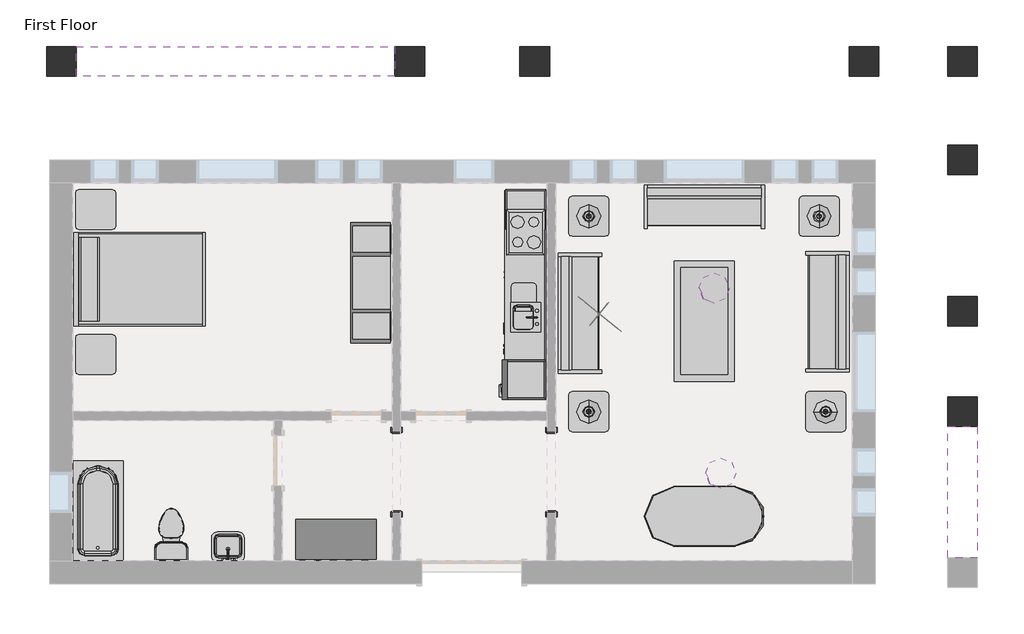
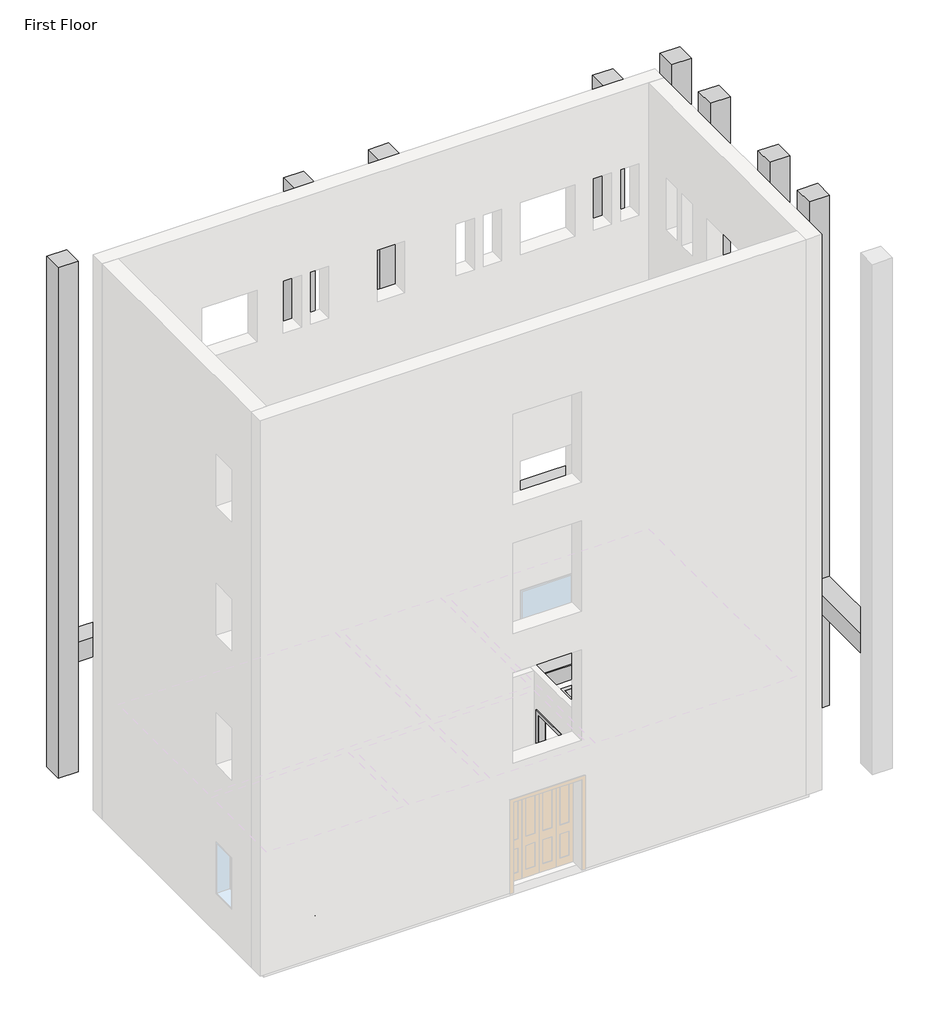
# One storey, part 3 of 3: 15 furniture elements, 8 columns, 7 proxies, 6 light fixtures, 4 flow terminals, 2 beams.
"""IFC4 building model written with IfcOpenShell, lengths in millimetres."""

from ifc_helpers import new_model, si_unit, frame, origin, place, context, project, spatial, polyline, outline, extrude, faceted_brep, transform, mapped, element, save
from components import m_cook_top_4_unit2_0615_x_500mm_249f3515, m_dishwasher_610_x_610_x_875mm_54ecfc4c, m_kitchenette_medium_2591_ce898a11, m_passage_opening_cased_1220_x_2134mm_87a8d9c2, m_rpc_female_c3b5a3e1, m_refrigerator_600_x_660mm_a466bf94, m_sink_kitchen_island_450_x_450mm_f969cf2d, m_sink_vanity_square_500_x_440mm_1e229b74, m_toilet_domestic_3d_m_toilet_domestic_3d_5cb52bd4, m_toilet_domestic_3d_m_toilet_domestic_3d_183bbd19, m_tub_rectangular_3d_m_tub_rectangular_3d_3a981ad5, m_bed_shaker_1422_x_1981mm_double_096e7f55, m_counter_top_w_sink_hole_600mm_depth_5db41418, m_dresser_1220_x_1525_x_0610mm_18e1f140, m_entertainment_center_1830_x_1830_x_0610mm_f77a9b93, m_sofa_1830mm_58d08fc1, m_table_coffee_0915_x_1830_x_0457mm_134cd960, m_table_dining_oval_0915_x_1830mm_a7cfbe21, m_table_end_cb6ea12e, m_pendant_light_disk_100w_120v_a7a090af, m_table_lamp_standard_60w_120v_6e8cd8b1

model = new_model("IFC4")

# Units and contexts
model_context = context("Model", 3, world=origin())
ifc_project = project(units=[si_unit("LENGTHUNIT", "METRE", prefix="MILLI")], contexts=[model_context])

# Site, building, storey
site = spatial("IfcSite", under=ifc_project)
building = spatial("IfcBuilding", under=site)
storey = spatial("IfcBuildingStorey", under=building, Name="First Floor", Elevation=0.0)

# Beams
placement = place(None, origin())
element("IfcBeam", 1, ObjectType="M_Concrete-Rectangular Beam : 450 x 450", at=placement, inside=storey, context=model_context, shape_type="SweptSolid", body=[
    extrude(outline(polyline([(-1643.3416203, 4481.1188386), (-1643.3416203, 4031.1188386), (-2693.3416203, 4031.1188386), (-2693.3416203, 4481.1188386), (-1643.3416203, 4481.1188386)])), frame((0.0, 0.0, 2598.0), z_axis=(0.0, 0.0, 1.0), x_axis=(1.0, 0.0, 0.0)), (0.0, 0.0, 1.0), 450.0),
    extrude(outline(polyline([(-14885.3416203, 4031.1188386), (-14885.3416203, 4481.1188386), (-10043.3416203, 4481.1188386), (-10043.3416203, 4031.1188386), (-14885.3416203, 4031.1188386)])), frame((0.0, 0.0, 2598.0), z_axis=(0.0, 0.0, 1.0), x_axis=(1.0, 0.0, 0.0)), (0.0, 0.0, 1.0), 450.0),
    extrude(outline(polyline([(-3143.3416203, 4481.1188386), (-3143.3416203, 4031.1188386), (-7693.3416203, 4031.1188386), (-7693.3416203, 4481.1188386), (-3143.3416203, 4481.1188386)])), frame((0.0, 0.0, 2598.0), z_axis=(0.0, 0.0, 1.0), x_axis=(1.0, 0.0, 0.0)), (0.0, 0.0, 1.0), 450.0),
    extrude(outline(polyline([(-8143.3416203, 4481.1188386), (-8143.3416203, 4031.1188386), (-9593.3416203, 4031.1188386), (-9593.3416203, 4481.1188386), (-8143.3416203, 4481.1188386)])), frame((0.0, 0.0, 2598.0), z_axis=(0.0, 0.0, 1.0), x_axis=(1.0, 0.0, 0.0)), (0.0, 0.0, 1.0), 450.0),
])
element("IfcBeam", 2, ObjectType="M_Concrete-Rectangular Beam : 450 x 450", at=placement, inside=storey, context=model_context, shape_type="SweptSolid", body=[
    extrude(outline(polyline([(-1193.3416203, -3289.8811614), (-1643.3416203, -3289.8811614), (-1643.3416203, -1295.3811614), (-1193.3416203, -1295.3811614), (-1193.3416203, -3289.8811614)])), frame((0.0, 0.0, 2598.0), z_axis=(0.0, 0.0, 1.0), x_axis=(1.0, 0.0, 0.0)), (0.0, 0.0, 1.0), 450.0),
    extrude(outline(polyline([(-1643.3416203, 4031.1188386), (-1193.3416203, 4031.1188386), (-1193.3416203, 2981.1188386), (-1643.3416203, 2981.1188386), (-1643.3416203, 4031.1188386)])), frame((0.0, 0.0, 2598.0), z_axis=(0.0, 0.0, 1.0), x_axis=(1.0, 0.0, 0.0)), (0.0, 0.0, 1.0), 450.0),
    extrude(outline(polyline([(-1643.3416203, 2531.1188386), (-1193.3416203, 2531.1188386), (-1193.3416203, 681.1188386), (-1643.3416203, 681.1188386), (-1643.3416203, 2531.1188386)])), frame((0.0, 0.0, 2598.0), z_axis=(0.0, 0.0, 1.0), x_axis=(1.0, 0.0, 0.0)), (0.0, 0.0, 1.0), 450.0),
    extrude(outline(polyline([(-1643.3416203, 231.1188386), (-1193.3416203, 231.1188386), (-1193.3416203, -845.3811614), (-1643.3416203, -845.3811614), (-1643.3416203, 231.1188386)])), frame((0.0, 0.0, 2598.0), z_axis=(0.0, 0.0, 1.0), x_axis=(1.0, 0.0, 0.0)), (0.0, 0.0, 1.0), 450.0),
])

# Proxies
m_cook_top_4_unit2_0615_x_500mm_shape = m_cook_top_4_unit2_0615_x_500mm_249f3515(model_context)
element("IfcBuildingElementProxy", 3, Name="M_Cook Top-4 Unit2 : 0615 x 500mm", ObjectType="M_Cook Top-4 Unit2 : 0615 x 500mm", at=placement, inside=storey, context=model_context, shape_type="MappedRepresentation", body=[
    mapped(m_cook_top_4_unit2_0615_x_500mm_shape, transform((-8054.9916203, 1658.804661, 0.0), x_axis=(0.0, -1.0, 0.0), y_axis=(1.0, 0.0, 0.0), z_axis=(0.0, 0.0, 1.0))),
])
m_dishwasher_610_x_610_x_875mm_shape = m_dishwasher_610_x_610_x_875mm_54ecfc4c(model_context)
element("IfcBuildingElementProxy", 4, Name="M_Dishwasher : 610 x 610 x 875mm", ObjectType="M_Dishwasher : 610 x 610 x 875mm", at=placement, inside=storey, context=model_context, shape_type="MappedRepresentation", body=[
    mapped(m_dishwasher_610_x_610_x_875mm_shape, transform((-8321.6411851, 403.0721295, 0.0), x_axis=(0.0, -1.0, 0.0), y_axis=(1.0, 0.0, 0.0), z_axis=(0.0, 0.0, 1.0))),
])
m_kitchenette_medium_2591_shape = m_kitchenette_medium_2591_ce898a11(model_context)
element("IfcBuildingElementProxy", 5, Name="M_Kitchenette - Medium : 2591", ObjectType="M_Kitchenette - Medium : 2591", at=placement, inside=storey, context=model_context, shape_type="MappedRepresentation", body=[
    mapped(m_kitchenette_medium_2591_shape, transform((-7749.9916203, 1029.7923659, 0.0), x_axis=(0.0, -1.0, 0.0), y_axis=(1.0, 0.0, 0.0), z_axis=(0.0, 0.0, 1.0))),
])
m_passage_opening_cased_1220_x_2134mm_shape = m_passage_opening_cased_1220_x_2134mm_87a8d9c2(model_context)
element("IfcBuildingElementProxy", 6, Name="M_Passage Opening-Cased : 1220 x 2134mm", ObjectType="M_Passage Opening-Cased : 1220 x 2134mm", at=placement, inside=storey, context=model_context, shape_type="MappedRepresentation", body=[
    mapped(m_passage_opening_cased_1220_x_2134mm_shape, transform((-7665.3416203, -1982.6925047, 0.0), x_axis=(0.0, 1.0, 0.0), y_axis=(-1.0, 0.0, 0.0), z_axis=(0.0, 0.0, 1.0))),
])
element("IfcBuildingElementProxy", 7, Name="M_Passage Opening-Cased : 1220 x 2134mm", ObjectType="M_Passage Opening-Cased : 1220 x 2134mm", at=placement, inside=storey, context=model_context, shape_type="MappedRepresentation", body=[
    mapped(m_passage_opening_cased_1220_x_2134mm_shape, transform((-10019.0916203, -1999.0698181, 0.0), x_axis=(0.0, -1.0, 0.0), y_axis=(1.0, 0.0, 0.0), z_axis=(0.0, 0.0, 1.0))),
])
m_rpc_female_shape = m_rpc_female_c3b5a3e1(model_context)
element("IfcBuildingElementProxy", 8, Name="M_RPC Female : Cynthia", ObjectType="M_RPC Female : Cynthia", at=placement, inside=storey, context=model_context, shape_type="MappedRepresentation", body=[
    mapped(m_rpc_female_shape, transform((-6817.8815242, 314.0517006, 0.0), x_axis=(-0.6293203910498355, -0.7771459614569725, 0.0), y_axis=(0.7771459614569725, -0.6293203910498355, 0.0), z_axis=(0.0, 0.0, 1.0))),
])
m_refrigerator_600_x_660mm_shape = m_refrigerator_600_x_660mm_a466bf94(model_context)
element("IfcBuildingElementProxy", 9, Name="M_Refrigerator : 600 x 660mm", ObjectType="M_Refrigerator : 600 x 660mm", at=placement, inside=storey, context=model_context, shape_type="MappedRepresentation", body=[
    mapped(m_refrigerator_600_x_660mm_shape, transform((-8046.2067105, -638.2464817, 0.0), x_axis=(0.0, -1.0, 0.0), y_axis=(1.0, 0.0, 0.0), z_axis=(0.0, 0.0, 1.0))),
])

# Columns
element("IfcColumn", 10, ObjectType="M_Concrete-Square-Column : 450 x 450mm", at=placement, inside=storey, context=model_context, shape_type="Brep", body=[
    faceted_brep([(-2693.3416203, 4481.1188386, 0.0), (-2693.3416203, 4031.1188386, 0.0), (-3143.3416203, 4031.1188386, 0.0), (-3143.3416203, 4481.1188386, 0.0), (-2693.3416203, 4481.1188386, 12042.0), (-2693.3416203, 4031.1188386, 12042.0), (-2693.3416203, 4031.1188386, 11742.0), (-2693.3416203, 4031.1188386, 9144.0), (-2693.3416203, 4031.1188386, 8694.0), (-2693.3416203, 4031.1188386, 6096.0), (-2693.3416203, 4031.1188386, 5646.0), (-2693.3416203, 4031.1188386, 3048.0), (-2693.3416203, 4031.1188386, 2598.0), (-2693.3416203, 4481.1188386, 2598.0), (-2693.3416203, 4481.1188386, 3048.0), (-2693.3416203, 4481.1188386, 5646.0), (-2693.3416203, 4481.1188386, 6096.0), (-2693.3416203, 4481.1188386, 8694.0), (-2693.3416203, 4481.1188386, 9144.0), (-2693.3416203, 4481.1188386, 11742.0), (-3143.3416203, 4031.1188386, 12042.0), (-3143.3416203, 4031.1188386, 11742.0), (-3143.3416203, 4031.1188386, 9144.0), (-3143.3416203, 4031.1188386, 8694.0), (-3143.3416203, 4031.1188386, 6096.0), (-3143.3416203, 4031.1188386, 5646.0), (-3143.3416203, 4031.1188386, 3048.0), (-3143.3416203, 4031.1188386, 2598.0), (-3143.3416203, 4481.1188386, 12042.0), (-3143.3416203, 4481.1188386, 11742.0), (-3143.3416203, 4481.1188386, 9144.0), (-3143.3416203, 4481.1188386, 8694.0), (-3143.3416203, 4481.1188386, 6096.0), (-3143.3416203, 4481.1188386, 5646.0), (-3143.3416203, 4481.1188386, 3048.0), (-3143.3416203, 4481.1188386, 2598.0)], [[[0, 1, 2, 3]], [[4, 5, 6, 7, 8, 9, 10, 11, 12, 1, 0, 13, 14, 15, 16, 17, 18, 19]], [[5, 20, 21, 22, 23, 24, 25, 26, 27, 2, 1, 12, 11, 10, 9, 8, 7, 6]], [[20, 28, 29, 30, 31, 32, 33, 34, 35, 3, 2, 27, 26, 25, 24, 23, 22, 21]], [[28, 4, 19, 18, 17, 16, 15, 14, 13, 0, 3, 35, 34, 33, 32, 31, 30, 29]], [[4, 28, 20, 5]]]),
])
element("IfcColumn", 11, ObjectType="M_Concrete-Square-Column : 450 x 450mm", at=placement, inside=storey, context=model_context, shape_type="Brep", body=[
    faceted_brep([(-7693.3416203, 4481.1188386, 0.0), (-7693.3416203, 4031.1188386, 0.0), (-8143.3416203, 4031.1188386, 0.0), (-8143.3416203, 4481.1188386, 0.0), (-7693.3416203, 4481.1188386, 12042.0), (-7693.3416203, 4031.1188386, 12042.0), (-7693.3416203, 4031.1188386, 11742.0), (-7693.3416203, 4031.1188386, 9144.0), (-7693.3416203, 4031.1188386, 8694.0), (-7693.3416203, 4031.1188386, 6096.0), (-7693.3416203, 4031.1188386, 5646.0), (-7693.3416203, 4031.1188386, 3048.0), (-7693.3416203, 4031.1188386, 2598.0), (-7693.3416203, 4481.1188386, 2598.0), (-7693.3416203, 4481.1188386, 3048.0), (-7693.3416203, 4481.1188386, 5646.0), (-7693.3416203, 4481.1188386, 6096.0), (-7693.3416203, 4481.1188386, 8694.0), (-7693.3416203, 4481.1188386, 9144.0), (-7693.3416203, 4481.1188386, 11742.0), (-8143.3416203, 4031.1188386, 12042.0), (-8143.3416203, 4031.1188386, 11742.0), (-8143.3416203, 4031.1188386, 9144.0), (-8143.3416203, 4031.1188386, 8694.0), (-8143.3416203, 4031.1188386, 6096.0), (-8143.3416203, 4031.1188386, 5646.0), (-8143.3416203, 4031.1188386, 3048.0), (-8143.3416203, 4031.1188386, 2598.0), (-8143.3416203, 4481.1188386, 12042.0), (-8143.3416203, 4481.1188386, 11742.0), (-8143.3416203, 4481.1188386, 9144.0), (-8143.3416203, 4481.1188386, 8694.0), (-8143.3416203, 4481.1188386, 6096.0), (-8143.3416203, 4481.1188386, 5646.0), (-8143.3416203, 4481.1188386, 3048.0), (-8143.3416203, 4481.1188386, 2598.0)], [[[0, 1, 2, 3]], [[4, 5, 6, 7, 8, 9, 10, 11, 12, 1, 0, 13, 14, 15, 16, 17, 18, 19]], [[5, 20, 21, 22, 23, 24, 25, 26, 27, 2, 1, 12, 11, 10, 9, 8, 7, 6]], [[20, 28, 29, 30, 31, 32, 33, 34, 35, 3, 2, 27, 26, 25, 24, 23, 22, 21]], [[28, 4, 19, 18, 17, 16, 15, 14, 13, 0, 3, 35, 34, 33, 32, 31, 30, 29]], [[4, 28, 20, 5]]]),
])
element("IfcColumn", 12, ObjectType="M_Concrete-Square-Column : 450 x 450mm", at=placement, inside=storey, context=model_context, shape_type="Brep", body=[
    faceted_brep([(-9593.3416203, 4481.1188386, 0.0), (-9593.3416203, 4031.1188386, 0.0), (-10043.3416203, 4031.1188386, 0.0), (-10043.3416203, 4481.1188386, 0.0), (-9593.3416203, 4481.1188386, 12042.0), (-9593.3416203, 4031.1188386, 12042.0), (-9593.3416203, 4031.1188386, 11742.0), (-9593.3416203, 4031.1188386, 9144.0), (-9593.3416203, 4031.1188386, 8694.0), (-9593.3416203, 4031.1188386, 6096.0), (-9593.3416203, 4031.1188386, 5646.0), (-9593.3416203, 4031.1188386, 3048.0), (-9593.3416203, 4031.1188386, 2598.0), (-9593.3416203, 4481.1188386, 2598.0), (-9593.3416203, 4481.1188386, 3048.0), (-9593.3416203, 4481.1188386, 5646.0), (-9593.3416203, 4481.1188386, 6096.0), (-9593.3416203, 4481.1188386, 8694.0), (-9593.3416203, 4481.1188386, 9144.0), (-9593.3416203, 4481.1188386, 11742.0), (-10043.3416203, 4031.1188386, 12042.0), (-10043.3416203, 4031.1188386, 11742.0), (-10043.3416203, 4031.1188386, 9144.0), (-10043.3416203, 4031.1188386, 8694.0), (-10043.3416203, 4031.1188386, 6096.0), (-10043.3416203, 4031.1188386, 5646.0), (-10043.3416203, 4031.1188386, 3048.0), (-10043.3416203, 4031.1188386, 2598.0), (-10043.3416203, 4481.1188386, 12042.0), (-10043.3416203, 4481.1188386, 11742.0), (-10043.3416203, 4481.1188386, 9144.0), (-10043.3416203, 4481.1188386, 8694.0), (-10043.3416203, 4481.1188386, 6096.0), (-10043.3416203, 4481.1188386, 5646.0), (-10043.3416203, 4481.1188386, 3048.0), (-10043.3416203, 4481.1188386, 2598.0)], [[[0, 1, 2, 3]], [[4, 5, 6, 7, 8, 9, 10, 11, 12, 1, 0, 13, 14, 15, 16, 17, 18, 19]], [[5, 20, 21, 22, 23, 24, 25, 26, 27, 2, 1, 12, 11, 10, 9, 8, 7, 6]], [[20, 28, 29, 30, 31, 32, 33, 34, 35, 3, 2, 27, 26, 25, 24, 23, 22, 21]], [[28, 4, 19, 18, 17, 16, 15, 14, 13, 0, 3, 35, 34, 33, 32, 31, 30, 29]], [[4, 28, 20, 5]]]),
])
element("IfcColumn", 13, ObjectType="M_Concrete-Square-Column : 450 x 450mm", at=placement, inside=storey, context=model_context, shape_type="Brep", body=[
    faceted_brep([(-14885.3416203, 4481.1188386, 0.0), (-14885.3416203, 4031.1188386, 0.0), (-15335.3416203, 4031.1188386, 0.0), (-15335.3416203, 4481.1188386, 0.0), (-14885.3416203, 4481.1188386, 12042.0), (-14885.3416203, 4031.1188386, 12042.0), (-14885.3416203, 4031.1188386, 11742.0), (-14885.3416203, 4481.1188386, 11742.0), (-15335.3416203, 4031.1188386, 12042.0), (-15335.3416203, 4031.1188386, 11742.0), (-15335.3416203, 4481.1188386, 12042.0), (-15335.3416203, 4481.1188386, 11742.0)], [[[0, 1, 2, 3]], [[4, 5, 6, 1, 0, 7]], [[5, 8, 9, 2, 1, 6]], [[8, 10, 11, 3, 2, 9]], [[10, 4, 7, 0, 3, 11]], [[4, 10, 8, 5]]]),
])
element("IfcColumn", 14, ObjectType="M_Concrete-Square-Column : 450 x 450mm", at=placement, inside=storey, context=model_context, shape_type="Brep", body=[
    faceted_brep([(-1193.3416203, 4481.1188386, 0.0), (-1193.3416203, 4031.1188386, 0.0), (-1643.3416203, 4031.1188386, 0.0), (-1643.3416203, 4481.1188386, 0.0), (-1193.3416203, 4481.1188386, 12042.0), (-1193.3416203, 4031.1188386, 12042.0), (-1193.3416203, 4031.1188386, 11742.0), (-1643.3416203, 4031.1188386, 12042.0), (-1643.3416203, 4031.1188386, 11742.0), (-1643.3416203, 4481.1188386, 12042.0), (-1643.3416203, 4481.1188386, 11742.0)], [[[0, 1, 2, 3]], [[4, 5, 6, 1, 0]], [[5, 7, 8, 2, 1, 6]], [[7, 9, 10, 3, 2, 8]], [[9, 4, 0, 3, 10]], [[4, 9, 7, 5]]]),
])
element("IfcColumn", 15, ObjectType="M_Concrete-Square-Column : 450 x 450mm", at=placement, inside=storey, context=model_context, shape_type="Brep", body=[
    faceted_brep([(-1193.3416203, 2981.1188386, 0.0), (-1193.3416203, 2531.1188386, 0.0), (-1643.3416203, 2531.1188386, 0.0), (-1643.3416203, 2981.1188386, 0.0), (-1193.3416203, 2981.1188386, 12042.0), (-1193.3416203, 2531.1188386, 12042.0), (-1193.3416203, 2531.1188386, 11742.0), (-1193.3416203, 2531.1188386, 9144.0), (-1193.3416203, 2531.1188386, 8694.0), (-1193.3416203, 2531.1188386, 6096.0), (-1193.3416203, 2531.1188386, 5646.0), (-1193.3416203, 2531.1188386, 3048.0), (-1193.3416203, 2531.1188386, 2598.0), (-1193.3416203, 2981.1188386, 2598.0), (-1193.3416203, 2981.1188386, 3048.0), (-1193.3416203, 2981.1188386, 5646.0), (-1193.3416203, 2981.1188386, 6096.0), (-1193.3416203, 2981.1188386, 8694.0), (-1193.3416203, 2981.1188386, 9144.0), (-1193.3416203, 2981.1188386, 11742.0), (-1643.3416203, 2531.1188386, 12042.0), (-1643.3416203, 2531.1188386, 11742.0), (-1643.3416203, 2531.1188386, 9144.0), (-1643.3416203, 2531.1188386, 8694.0), (-1643.3416203, 2531.1188386, 6096.0), (-1643.3416203, 2531.1188386, 5646.0), (-1643.3416203, 2531.1188386, 3048.0), (-1643.3416203, 2531.1188386, 2598.0), (-1643.3416203, 2981.1188386, 12042.0), (-1643.3416203, 2981.1188386, 11742.0), (-1643.3416203, 2981.1188386, 9144.0), (-1643.3416203, 2981.1188386, 8694.0), (-1643.3416203, 2981.1188386, 6096.0), (-1643.3416203, 2981.1188386, 5646.0), (-1643.3416203, 2981.1188386, 3048.0), (-1643.3416203, 2981.1188386, 2598.0)], [[[0, 1, 2, 3]], [[4, 5, 6, 7, 8, 9, 10, 11, 12, 1, 0, 13, 14, 15, 16, 17, 18, 19]], [[5, 20, 21, 22, 23, 24, 25, 26, 27, 2, 1, 12, 11, 10, 9, 8, 7, 6]], [[20, 28, 29, 30, 31, 32, 33, 34, 35, 3, 2, 27, 26, 25, 24, 23, 22, 21]], [[28, 4, 19, 18, 17, 16, 15, 14, 13, 0, 3, 35, 34, 33, 32, 31, 30, 29]], [[4, 28, 20, 5]]]),
])
element("IfcColumn", 16, ObjectType="M_Concrete-Square-Column : 450 x 450mm", at=placement, inside=storey, context=model_context, shape_type="Brep", body=[
    faceted_brep([(-1193.3416203, 681.1188386, 0.0), (-1193.3416203, 231.1188386, 0.0), (-1643.3416203, 231.1188386, 0.0), (-1643.3416203, 681.1188386, 0.0), (-1193.3416203, 681.1188386, 12042.0), (-1193.3416203, 231.1188386, 12042.0), (-1193.3416203, 231.1188386, 11742.0), (-1193.3416203, 231.1188386, 9144.0), (-1193.3416203, 231.1188386, 8694.0), (-1193.3416203, 231.1188386, 6096.0), (-1193.3416203, 231.1188386, 5646.0), (-1193.3416203, 231.1188386, 3048.0), (-1193.3416203, 231.1188386, 2598.0), (-1193.3416203, 681.1188386, 2598.0), (-1193.3416203, 681.1188386, 3048.0), (-1193.3416203, 681.1188386, 5646.0), (-1193.3416203, 681.1188386, 6096.0), (-1193.3416203, 681.1188386, 8694.0), (-1193.3416203, 681.1188386, 9144.0), (-1193.3416203, 681.1188386, 11742.0), (-1643.3416203, 231.1188386, 12042.0), (-1643.3416203, 231.1188386, 11742.0), (-1643.3416203, 231.1188386, 9144.0), (-1643.3416203, 231.1188386, 8694.0), (-1643.3416203, 231.1188386, 6096.0), (-1643.3416203, 231.1188386, 5646.0), (-1643.3416203, 231.1188386, 3048.0), (-1643.3416203, 231.1188386, 2598.0), (-1643.3416203, 681.1188386, 12042.0), (-1643.3416203, 681.1188386, 11742.0), (-1643.3416203, 681.1188386, 9144.0), (-1643.3416203, 681.1188386, 8694.0), (-1643.3416203, 681.1188386, 6096.0), (-1643.3416203, 681.1188386, 5646.0), (-1643.3416203, 681.1188386, 3048.0), (-1643.3416203, 681.1188386, 2598.0)], [[[0, 1, 2, 3]], [[4, 5, 6, 7, 8, 9, 10, 11, 12, 1, 0, 13, 14, 15, 16, 17, 18, 19]], [[5, 20, 21, 22, 23, 24, 25, 26, 27, 2, 1, 12, 11, 10, 9, 8, 7, 6]], [[20, 28, 29, 30, 31, 32, 33, 34, 35, 3, 2, 27, 26, 25, 24, 23, 22, 21]], [[28, 4, 19, 18, 17, 16, 15, 14, 13, 0, 3, 35, 34, 33, 32, 31, 30, 29]], [[4, 28, 20, 5]]]),
])
element("IfcColumn", 17, ObjectType="M_Concrete-Square-Column : 450 x 450mm", at=placement, inside=storey, context=model_context, shape_type="Brep", body=[
    faceted_brep([(-1193.3416203, -845.3811614, 0.0), (-1193.3416203, -1295.3811614, 0.0), (-1643.3416203, -1295.3811614, 0.0), (-1643.3416203, -845.3811614, 0.0), (-1193.3416203, -845.3811614, 12042.0), (-1193.3416203, -1295.3811614, 12042.0), (-1193.3416203, -1295.3811614, 11742.0), (-1193.3416203, -1295.3811614, 9144.0), (-1193.3416203, -1295.3811614, 8694.0), (-1193.3416203, -1295.3811614, 6096.0), (-1193.3416203, -1295.3811614, 5646.0), (-1193.3416203, -1295.3811614, 3048.0), (-1193.3416203, -1295.3811614, 2598.0), (-1193.3416203, -845.3811614, 2598.0), (-1193.3416203, -845.3811614, 3048.0), (-1193.3416203, -845.3811614, 5646.0), (-1193.3416203, -845.3811614, 6096.0), (-1193.3416203, -845.3811614, 8694.0), (-1193.3416203, -845.3811614, 9144.0), (-1193.3416203, -845.3811614, 11742.0), (-1643.3416203, -1295.3811614, 12042.0), (-1643.3416203, -1295.3811614, 11742.0), (-1643.3416203, -1295.3811614, 9144.0), (-1643.3416203, -1295.3811614, 8694.0), (-1643.3416203, -1295.3811614, 6096.0), (-1643.3416203, -1295.3811614, 5646.0), (-1643.3416203, -1295.3811614, 3048.0), (-1643.3416203, -1295.3811614, 2598.0), (-1643.3416203, -845.3811614, 12042.0), (-1643.3416203, -845.3811614, 11742.0), (-1643.3416203, -845.3811614, 9144.0), (-1643.3416203, -845.3811614, 8694.0), (-1643.3416203, -845.3811614, 6096.0), (-1643.3416203, -845.3811614, 5646.0), (-1643.3416203, -845.3811614, 3048.0), (-1643.3416203, -845.3811614, 2598.0)], [[[0, 1, 2, 3]], [[4, 5, 6, 7, 8, 9, 10, 11, 12, 1, 0, 13, 14, 15, 16, 17, 18, 19]], [[5, 20, 21, 22, 23, 24, 25, 26, 27, 2, 1, 12, 11, 10, 9, 8, 7, 6]], [[20, 28, 29, 30, 31, 32, 33, 34, 35, 3, 2, 27, 26, 25, 24, 23, 22, 21]], [[28, 4, 19, 18, 17, 16, 15, 14, 13, 0, 3, 35, 34, 33, 32, 31, 30, 29]], [[4, 28, 20, 5]]]),
])

# Flow terminals
m_sink_kitchen_island_450_x_450mm_shape = m_sink_kitchen_island_450_x_450mm_f969cf2d(model_context)
element("IfcFlowTerminal", 18, ObjectType="M_Sink Kitchen-Island : 450 x 450mm", at=placement, inside=storey, context=model_context, shape_type="MappedRepresentation", body=[
    mapped(m_sink_kitchen_island_450_x_450mm_shape, transform((-8057.3370214, 378.9939015, 0.0), x_axis=(0.0, -1.0, 0.0), y_axis=(1.0, 0.0, 0.0), z_axis=(0.0, 0.0, 1.0))),
])
m_sink_vanity_square_500_x_440mm_shape = m_sink_vanity_square_500_x_440mm_1e229b74(model_context)
element("IfcFlowTerminal", 19, ObjectType="M_Sink Vanity-Square : 500 x 440mm", at=placement, inside=storey, context=model_context, shape_type="MappedRepresentation", body=[
    mapped(m_sink_vanity_square_500_x_440mm_shape, transform((-12563.5523798, -3158.1107603, 0.0), x_axis=(-1.0, 0.0, 0.0), y_axis=(0.0, -1.0, 0.0), z_axis=(0.0, 0.0, 1.0))),
])
m_toilet_domestic_3d_m_toilet_domestic_3d_shape = m_toilet_domestic_3d_m_toilet_domestic_3d_5cb52bd4(model_context)
m_toilet_domestic_3d_m_toilet_domestic_3d_2_shape = m_toilet_domestic_3d_m_toilet_domestic_3d_183bbd19(model_context)
element("IfcFlowTerminal", 20, ObjectType="M_Toilet-Domestic-3D : M_Toilet-Domestic-3D", at=placement, inside=storey, context=model_context, shape_type="MappedRepresentation", body=[
    mapped(m_toilet_domestic_3d_m_toilet_domestic_3d_shape, transform((-13440.7376477, -2845.185134, 0.0), x_axis=(-1.0000000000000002, 0.0, 0.0), y_axis=(0.0, -1.0000000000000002, 0.0), z_axis=(0.0, 0.0, 1.0))),
    mapped(m_toilet_domestic_3d_m_toilet_domestic_3d_2_shape, transform((-13440.7376477, -2845.185134, 0.0), x_axis=(-1.0000000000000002, 0.0, 0.0), y_axis=(0.0, -1.0000000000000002, 0.0), z_axis=(0.0, 0.0, 1.0))),
])
m_tub_rectangular_3d_m_tub_rectangular_3d_shape = m_tub_rectangular_3d_m_tub_rectangular_3d_3a981ad5(model_context)
element("IfcFlowTerminal", 21, ObjectType="M_Tub-Rectangular-3D : M_Tub-Rectangular-3D", at=placement, inside=storey, context=model_context, shape_type="MappedRepresentation", body=[
    mapped(m_tub_rectangular_3d_m_tub_rectangular_3d_shape, transform((-15110.3416203, -2229.2781927, 0.0), x_axis=(0.0, 1.0, 0.0), y_axis=(-1.0, 0.0, 0.0), z_axis=(0.0, 0.0, 1.0))),
])

# Furniture
m_bed_shaker_1422_x_1981mm_double_shape = m_bed_shaker_1422_x_1981mm_double_096e7f55(model_context)
element("IfcFurniture", 22, ObjectType="M_Bed-Shaker : 1422 x 1981mm - Double", at=placement, inside=storey, context=model_context, shape_type="MappedRepresentation", body=[
    mapped(m_bed_shaker_1422_x_1981mm_double_shape, transform((-14905.3416203, 963.9688386, 0.0), x_axis=(0.0, 1.0000000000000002, 0.0), y_axis=(-1.0000000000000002, 0.0, 0.0), z_axis=(0.0, 0.0, 1.0))),
])
m_counter_top_w_sink_hole_600mm_depth_shape = m_counter_top_w_sink_hole_600mm_depth_5db41418(model_context)
element("IfcFurniture", 23, ObjectType="M_Counter Top w Sink Hole : 600mm Depth", at=placement, inside=storey, context=model_context, shape_type="MappedRepresentation", body=[
    mapped(m_counter_top_w_sink_hole_600mm_depth_shape, transform((-7749.9916203, 496.5923659, 0.0), x_axis=(0.0, -1.0, 0.0), y_axis=(1.0, 0.0, 0.0), z_axis=(0.0, 0.0, 1.0))),
])
m_dresser_1220_x_1525_x_0610mm_shape = m_dresser_1220_x_1525_x_0610mm_18e1f140(model_context)
element("IfcFurniture", 24, ObjectType="M_Dresser : 1220 x 1525 x 0610mm", at=placement, inside=storey, context=model_context, shape_type="MappedRepresentation", body=[
    mapped(m_dresser_1220_x_1525_x_0610mm_shape, transform((-10667.6483605, -2647.7182073, 0.0), x_axis=(1.0, 0.0, 0.0), y_axis=(0.0, 1.0, 0.0), z_axis=(0.0, 0.0, 1.0))),
])
m_entertainment_center_1830_x_1830_x_0610mm_shape = m_entertainment_center_1830_x_1830_x_0610mm_f77a9b93(model_context)
element("IfcFurniture", 25, ObjectType="M_Entertainment center : 1830 x 1830 x 0610mm", at=placement, inside=storey, context=model_context, shape_type="MappedRepresentation", body=[
    mapped(m_entertainment_center_1830_x_1830_x_0610mm_shape, transform((-10818.2416203, 891.1188386, 0.0), x_axis=(0.0, 1.0, 0.0), y_axis=(-1.0, 0.0, 0.0), z_axis=(0.0, 0.0, 1.0))),
])
m_sofa_1830mm_shape = m_sofa_1830mm_58d08fc1(model_context)
element("IfcFurniture", 26, ObjectType="M_Sofa : 1830mm", at=placement, inside=storey, context=model_context, shape_type="MappedRepresentation", body=[
    mapped(m_sofa_1830mm_shape, transform((-5413.7121121, 1899.9647403, 0.0), x_axis=(1.0, 0.0, 0.0), y_axis=(0.0, 1.0, 0.0), z_axis=(0.0, 0.0, 1.0))),
])
element("IfcFurniture", 27, ObjectType="M_Sofa : 1830mm", at=placement, inside=storey, context=model_context, shape_type="MappedRepresentation", body=[
    mapped(m_sofa_1830mm_shape, transform((-3617.1736471, 517.2688343, 0.0), x_axis=(0.0, -1.0, 0.0), y_axis=(1.0, 0.0, 0.0), z_axis=(0.0, 0.0, 1.0))),
])
element("IfcFurniture", 28, ObjectType="M_Sofa : 1830mm", at=placement, inside=storey, context=model_context, shape_type="MappedRepresentation", body=[
    mapped(m_sofa_1830mm_shape, transform((-7088.437522, 355.7483468, 0.0), x_axis=(0.0, 1.0, 0.0), y_axis=(-1.0, 0.0, 0.0), z_axis=(0.0, 0.0, 1.0))),
])
m_table_coffee_0915_x_1830_x_0457mm_shape = m_table_coffee_0915_x_1830_x_0457mm_134cd960(model_context)
element("IfcFurniture", 29, ObjectType="M_Table-Coffee : 0915 x 1830 x 0457mm", at=placement, inside=storey, context=model_context, shape_type="MappedRepresentation", body=[
    mapped(m_table_coffee_0915_x_1830_x_0457mm_shape, transform((-5248.1305425, 287.8530719, 0.0), x_axis=(0.0, 1.0, 0.0), y_axis=(-1.0, 0.0, 0.0), z_axis=(0.0, 0.0, 1.0))),
])
m_table_dining_oval_0915_x_1830mm_shape = m_table_dining_oval_0915_x_1830mm_a7cfbe21(model_context)
element("IfcFurniture", 30, ObjectType="M_Table-Dining Oval : 0915 x 1830mm", at=placement, inside=storey, context=model_context, shape_type="MappedRepresentation", body=[
    mapped(m_table_dining_oval_0915_x_1830mm_shape, transform((-4941.5219482, -2305.2828007, 0.0), x_axis=(1.0, 0.0, 0.0), y_axis=(0.0, 1.0, 0.0), z_axis=(0.0, 0.0, 1.0))),
])
m_table_end_shape = m_table_end_cb6ea12e(model_context)
element("IfcFurniture", 31, ObjectType="M_Table-End : 0610 x 0160mm altered height", at=placement, inside=storey, context=model_context, shape_type="MappedRepresentation", body=[
    mapped(m_table_end_shape, transform((-7407.0752506, 1748.7188386, 0.0), x_axis=(1.0, 0.0, 0.0), y_axis=(0.0, 1.0, 0.0), z_axis=(0.0, 0.0, 1.0))),
])
element("IfcFurniture", 32, ObjectType="M_Table-End : 0610 x 0160mm altered height", at=placement, inside=storey, context=model_context, shape_type="MappedRepresentation", body=[
    mapped(m_table_end_shape, transform((-3907.0752506, 1748.7188386, 0.0), x_axis=(1.0, 0.0, 0.0), y_axis=(0.0, 1.0, 0.0), z_axis=(0.0, 0.0, 1.0))),
])
element("IfcFurniture", 33, ObjectType="M_Table-End : 0610 x 0160mm altered height", at=placement, inside=storey, context=model_context, shape_type="MappedRepresentation", body=[
    mapped(m_table_end_shape, transform((-3807.0752506, -1222.7811614, 0.0), x_axis=(1.0, 0.0, 0.0), y_axis=(0.0, 1.0, 0.0), z_axis=(0.0, 0.0, 1.0))),
])
element("IfcFurniture", 34, ObjectType="M_Table-End : 0610 x 0160mm altered height", at=placement, inside=storey, context=model_context, shape_type="MappedRepresentation", body=[
    mapped(m_table_end_shape, transform((-7407.0752506, -1222.7811614, 0.0), x_axis=(1.0, 0.0, 0.0), y_axis=(0.0, 1.0, 0.0), z_axis=(0.0, 0.0, 1.0))),
])
element("IfcFurniture", 35, ObjectType="M_Table-End : 0610 x 0160mm altered height", at=placement, inside=storey, context=model_context, shape_type="MappedRepresentation", body=[
    mapped(m_table_end_shape, transform((-14899.0752506, -351.2811614, 0.0), x_axis=(1.0, 0.0, 0.0), y_axis=(0.0, 1.0, 0.0), z_axis=(0.0, 0.0, 1.0))),
])
element("IfcFurniture", 36, ObjectType="M_Table-End : 0610 x 0160mm altered height", at=placement, inside=storey, context=model_context, shape_type="MappedRepresentation", body=[
    mapped(m_table_end_shape, transform((-14899.0752506, 1848.7188386, 0.0), x_axis=(1.0, 0.0, 0.0), y_axis=(0.0, 1.0, 0.0), z_axis=(0.0, 0.0, 1.0))),
])

# Light fixtures
m_pendant_light_disk_100w_120v_shape = m_pendant_light_disk_100w_120v_a7a090af(model_context)
element("IfcLightFixture", 37, ObjectType="M_Pendant Light - Disk : 100W - 120V", at=placement, inside=storey, context=model_context, shape_type="MappedRepresentation", body=[
    mapped(m_pendant_light_disk_100w_120v_shape, transform((-5193.3416203, 806.1188386, 151.5999938), x_axis=(1.0, 0.0, 0.0), y_axis=(0.0, 1.0, 0.0), z_axis=(0.0, 0.0, 1.0))),
])
element("IfcLightFixture", 38, ObjectType="M_Pendant Light - Disk : 100W - 120V", at=placement, inside=storey, context=model_context, shape_type="MappedRepresentation", body=[
    mapped(m_pendant_light_disk_100w_120v_shape, transform((-5093.3416203, -2005.8811614, 151.5999938), x_axis=(1.0, 0.0, 0.0), y_axis=(0.0, 1.0, 0.0), z_axis=(0.0, 0.0, 1.0))),
])
m_table_lamp_standard_60w_120v_shape = m_table_lamp_standard_60w_120v_6e8cd8b1(model_context)
element("IfcLightFixture", 39, ObjectType="M_Table Lamp - Standard : 60W - 120V", at=placement, inside=storey, context=model_context, shape_type="MappedRepresentation", body=[
    mapped(m_table_lamp_standard_60w_120v_shape, transform((-3498.3416203, -1070.3811614, 381.0), x_axis=(1.0, 0.0, 0.0), y_axis=(0.0, 1.0, 0.0), z_axis=(0.0, 0.0, 1.0))),
])
element("IfcLightFixture", 40, ObjectType="M_Table Lamp - Standard : 60W - 120V", at=placement, inside=storey, context=model_context, shape_type="MappedRepresentation", body=[
    mapped(m_table_lamp_standard_60w_120v_shape, transform((-3598.3416203, 1901.1188386, 381.0), x_axis=(0.0, 1.0000000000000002, 0.0), y_axis=(-1.0000000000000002, 0.0, 0.0), z_axis=(0.0, 0.0, 1.0))),
])
element("IfcLightFixture", 41, ObjectType="M_Table Lamp - Standard : 60W - 120V", at=placement, inside=storey, context=model_context, shape_type="MappedRepresentation", body=[
    mapped(m_table_lamp_standard_60w_120v_shape, transform((-7098.3416203, 1901.1188386, 381.0), x_axis=(0.0, 1.0000000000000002, 0.0), y_axis=(-1.0000000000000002, 0.0, 0.0), z_axis=(0.0, 0.0, 1.0))),
])
element("IfcLightFixture", 42, ObjectType="M_Table Lamp - Standard : 60W - 120V", at=placement, inside=storey, context=model_context, shape_type="MappedRepresentation", body=[
    mapped(m_table_lamp_standard_60w_120v_shape, transform((-7098.3416203, -1070.3811614, 381.0), x_axis=(0.0, 1.0000000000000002, 0.0), y_axis=(-1.0000000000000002, 0.0, 0.0), z_axis=(0.0, 0.0, 1.0))),
])

save(model, "model.ifc")
